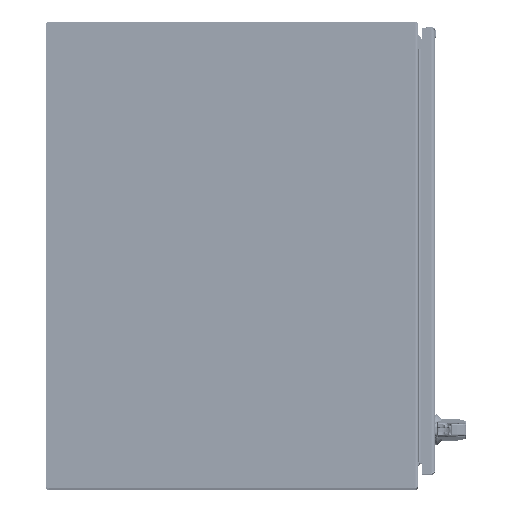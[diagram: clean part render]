
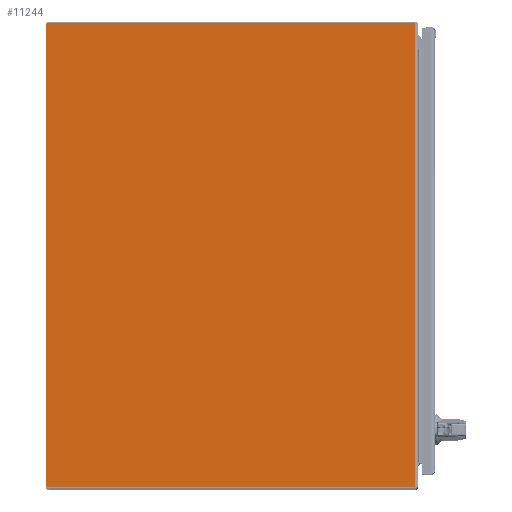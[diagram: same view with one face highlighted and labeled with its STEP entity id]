
A CAD part, top view. The second image highlights one B-rep face of the part: STEP entity #11244.
In plain terms, the highlighted planar face has unit normal (0, 0, 1) as drawn and (0, 1, 0) by its records, which use the part's own axes.
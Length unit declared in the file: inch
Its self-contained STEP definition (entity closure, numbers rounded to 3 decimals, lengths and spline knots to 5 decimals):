
#10455=CARTESIAN_POINT('',(-23.888,0.,-14.888));
#10456=DIRECTION('',(0.,1.,0.));
#10457=DIRECTION('',(0.,0.,-1.));
#10458=AXIS2_PLACEMENT_3D('',#10455,#10456,#10457);
#10463=CARTESIAN_POINT('',(-23.888,0.,14.888));
#10464=DIRECTION('',(0.,1.,0.));
#10465=DIRECTION('',(-1.,0.,0.));
#10466=AXIS2_PLACEMENT_3D('',#10463,#10464,#10465);
#10478=DIRECTION('',(0.,0.,-1.));
#10479=VECTOR('',#10478,29.776);
#10480=CARTESIAN_POINT('',(-23.948,0.,14.888));
#10481=LINE('',#10480,#10479);
#10506=DIRECTION('',(-1.,0.,0.));
#10507=VECTOR('',#10506,23.662);
#10508=CARTESIAN_POINT('',(-0.226,0.,14.948));
#10509=LINE('',#10508,#10507);
#10549=DIRECTION('',(0.,0.,1.));
#10550=VECTOR('',#10549,29.896);
#10551=CARTESIAN_POINT('',(-0.226,0.,-14.948));
#10552=LINE('',#10551,#10550);
#10657=DIRECTION('',(-1.,0.,0.));
#10658=VECTOR('',#10657,23.662);
#10659=CARTESIAN_POINT('',(-0.226,0.,-14.948));
#10660=LINE('',#10659,#10658);
#11129=CARTESIAN_POINT('',(-0.226,0.,14.948));
#11130=VERTEX_POINT('',#11129);
#11131=CARTESIAN_POINT('',(-0.226,0.,-14.948));
#11132=VERTEX_POINT('',#11131);
#11157=CARTESIAN_POINT('',(-23.888,0.,-14.948));
#11158=CARTESIAN_POINT('',(-23.948,0.,-14.888));
#11159=VERTEX_POINT('',#11157);
#11160=VERTEX_POINT('',#11158);
#11165=CARTESIAN_POINT('',(-23.948,0.,14.888));
#11166=CARTESIAN_POINT('',(-23.888,0.,14.948));
#11167=VERTEX_POINT('',#11165);
#11168=VERTEX_POINT('',#11166);
#11225=CARTESIAN_POINT('',(0.,0.,14.948));
#11226=DIRECTION('',(0.,1.,0.));
#11227=DIRECTION('',(-1.,0.,0.));
#11228=AXIS2_PLACEMENT_3D('',#11225,#11226,#11227);
#11229=PLANE('',#11228);
#11231=ORIENTED_EDGE('',*,*,#11230,.F.);
#11233=ORIENTED_EDGE('',*,*,#11232,.F.);
#11235=ORIENTED_EDGE('',*,*,#11234,.T.);
#11237=ORIENTED_EDGE('',*,*,#11236,.T.);
#11239=ORIENTED_EDGE('',*,*,#11238,.F.);
#11241=ORIENTED_EDGE('',*,*,#11240,.T.);
#11242=EDGE_LOOP('',(#11231,#11233,#11235,#11237,#11239,#11241));
#11243=FACE_OUTER_BOUND('',#11242,.F.);
#10459=CIRCLE('',#10458,0.06);
#10467=CIRCLE('',#10466,0.06);
#11230=EDGE_CURVE('',#11159,#11160,#10459,.T.);
#11232=EDGE_CURVE('',#11132,#11159,#10660,.T.);
#11234=EDGE_CURVE('',#11132,#11130,#10552,.T.);
#11236=EDGE_CURVE('',#11130,#11168,#10509,.T.);
#11238=EDGE_CURVE('',#11167,#11168,#10467,.T.);
#11240=EDGE_CURVE('',#11167,#11160,#10481,.T.);
#11244=ADVANCED_FACE('',(#11243),#11229,.T.);
